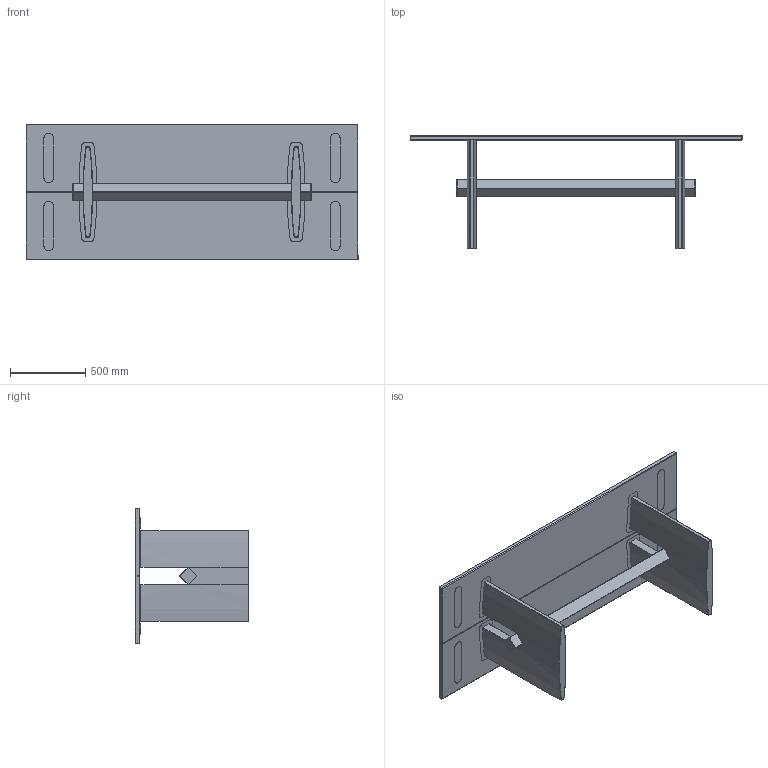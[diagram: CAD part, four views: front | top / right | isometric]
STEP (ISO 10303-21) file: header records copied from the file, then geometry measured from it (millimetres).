
FILE_DESCRIPTION (( 'STEP AP203' ), '1' );
FILE_NAME ('SNOOP DINING TABLE.STEP', '2024-08-09T06:27:05', ( '' ), ( '' ), 'SwSTEP 2.0', 'SolidWorks 2024', '' );
FILE_SCHEMA (( 'CONFIG_CONTROL_DESIGN' ));
Length unit declared in the file: millimetre
Products named in the file (2): Group1^trp. sto SNOOP_defeature; SNOOP DINING TABLE
Assembly tree (1 placements, depth 2):
  SNOOP DINING TABLE
    Group1^trp. sto SNOOP_defeature
Bounding box: 2200 x 750 x 900 mm (x, y, z)
Volume: 108491938.1 mm3; surface area: 6471958.4 mm2
Topology: 1 solids, 1 shells, 212 faces, 535 edges, 315 vertices
Faces by surface type: cylinder 95, plane 56, torus 28, sphere 25, bspline 8
Entity records: 6847 total; most frequent: CARTESIAN_POINT 1590, DIRECTION 1143, ORIENTED_EDGE 1032, EDGE_CURVE 516, AXIS2_PLACEMENT_3D 459, VERTEX_POINT 314, CIRCLE 251, LINE 225
